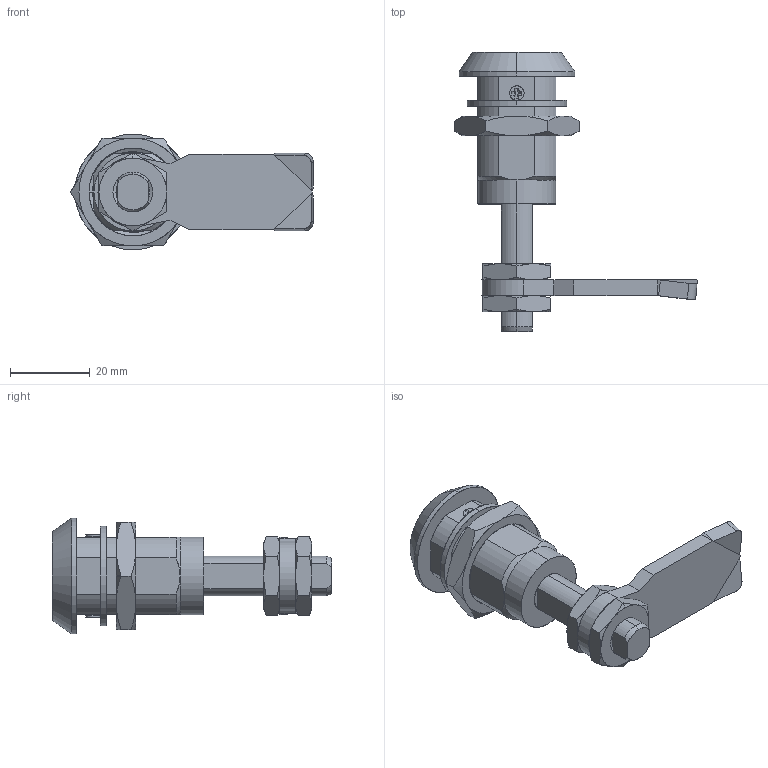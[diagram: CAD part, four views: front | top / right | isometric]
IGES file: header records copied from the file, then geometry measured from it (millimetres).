
Start section: SolidWorks IGES file using analytic representation for surfaces
Global section: file name: E:\DATA FOLDER FOR WEB-2015\'B' SECTION\CAM Lock\Final IGS\DRSCO1-30-SQ-SR.IGS; native system: SolidWorks 2015; preprocessor: SolidWorks 2015; author: solidworksqc; date: 160415.101205; units: millimetre
Bounding box: 60.83 x 70 x 29 mm (x, y, z)
Surface area: 12778.8 mm2 (no closed solid volume)
Topology: 0 solids, 0 shells, 188 faces, 2353 edges, 2353 vertices
Faces by surface type: revolution 94, bspline 94
